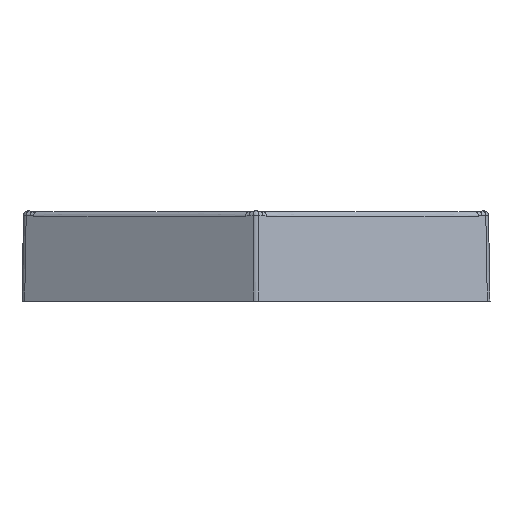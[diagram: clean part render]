
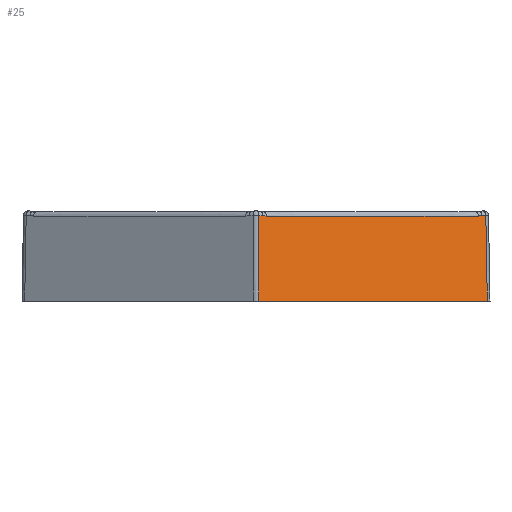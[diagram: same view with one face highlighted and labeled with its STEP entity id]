
A CAD part, left-side view. The second image highlights one B-rep face of the part: STEP entity #25.
In plain terms, the highlighted planar face has unit normal (-0.866, -0.5, 0.018).
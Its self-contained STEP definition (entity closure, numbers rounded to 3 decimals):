
#25=ADVANCED_FACE('',(#128),#1451,.T.);
#128=FACE_OUTER_BOUND('',#231,.T.);
#231=EDGE_LOOP('',(#345,#346,#347,#348,#349,#350,#351,#352));
#345=ORIENTED_EDGE('',*,*,#797,.T.);
#346=ORIENTED_EDGE('',*,*,#944,.T.);
#347=ORIENTED_EDGE('',*,*,#853,.T.);
#348=ORIENTED_EDGE('',*,*,#798,.F.);
#349=ORIENTED_EDGE('',*,*,#856,.T.);
#350=ORIENTED_EDGE('',*,*,#941,.T.);
#351=ORIENTED_EDGE('',*,*,#799,.T.);
#352=ORIENTED_EDGE('',*,*,#800,.T.);
#797=EDGE_CURVE('',#1257,#1258,#1019,.T.);
#798=EDGE_CURVE('',#1251,#1252,#1020,.T.);
#799=EDGE_CURVE('',#1261,#1262,#1021,.T.);
#800=EDGE_CURVE('',#1262,#1257,#1022,.T.);
#853=EDGE_CURVE('',#1259,#1252,#1075,.T.);
#856=EDGE_CURVE('',#1251,#1260,#1078,.T.);
#941=EDGE_CURVE('',#1260,#1261,#1136,.T.);
#944=EDGE_CURVE('',#1258,#1259,#1138,.T.);
#1019=B_SPLINE_CURVE_WITH_KNOTS('',3,(#3069,#3070,#3071,#3072),
 .UNSPECIFIED.,.F.,.F.,(4,4),(0.,0.982),.UNSPECIFIED.);
#1020=B_SPLINE_CURVE_WITH_KNOTS('',1,(#3073,#3074),.UNSPECIFIED.,.F.,.F.,
(2,2),(-59.028,0.),.UNSPECIFIED.);
#1021=B_SPLINE_CURVE_WITH_KNOTS('',3,(#3075,#3076,#3077,#3078),
 .UNSPECIFIED.,.F.,.F.,(4,4),(0.,0.982),.UNSPECIFIED.);
#1022=B_SPLINE_CURVE_WITH_KNOTS('',3,(#3079,#3080,#3081,#3082),
 .UNSPECIFIED.,.F.,.F.,(4,4),(0.,54.73),.UNSPECIFIED.);
#1075=B_SPLINE_CURVE_WITH_KNOTS('',1,(#3265,#3266),.UNSPECIFIED.,.F.,.F.,
(2,2),(-19.194,0.),.UNSPECIFIED.);
#1078=B_SPLINE_CURVE_WITH_KNOTS('',1,(#3271,#3272),.UNSPECIFIED.,.F.,.F.,
(2,2),(-19.194,0.),.UNSPECIFIED.);
#1136=B_SPLINE_CURVE_WITH_KNOTS('',3,(#3592,#3593,#3594,#3595),
 .UNSPECIFIED.,.F.,.F.,(4,4),(-0.001,0.),.UNSPECIFIED.);
#1138=B_SPLINE_CURVE_WITH_KNOTS('',3,(#3605,#3606,#3607,#3608),
 .UNSPECIFIED.,.F.,.F.,(4,4),(-0.001,0.),.UNSPECIFIED.);
#1251=VERTEX_POINT('',#2914);
#1252=VERTEX_POINT('',#2915);
#1257=VERTEX_POINT('',#2920);
#1258=VERTEX_POINT('',#2921);
#1259=VERTEX_POINT('',#2922);
#1260=VERTEX_POINT('',#2923);
#1261=VERTEX_POINT('',#2924);
#1262=VERTEX_POINT('',#2925);
#1451=PLANE('',#1496);
#1496=AXIS2_PLACEMENT_3D('',#1552,#1524,$);
#1524=DIRECTION('',(-0.866,-0.5,0.017));
#1552=CARTESIAN_POINT('',(-63.069,4.513,-2.466));
#2914=CARTESIAN_POINT('',(-30.553,-51.719,0.));
#2915=CARTESIAN_POINT('',(-60.067,-0.6,0.));
#2920=CARTESIAN_POINT('',(-58.705,-2.295,19.006));
#2921=CARTESIAN_POINT('',(-59.194,-1.447,19.069));
#2922=CARTESIAN_POINT('',(-59.68,-0.6,19.19));
#2923=CARTESIAN_POINT('',(-30.36,-51.384,19.19));
#2924=CARTESIAN_POINT('',(-30.85,-50.54,19.069));
#2925=CARTESIAN_POINT('',(-31.34,-49.693,19.006));
#3069=CARTESIAN_POINT('',(-58.705,-2.295,19.006));
#3070=CARTESIAN_POINT('',(-58.87,-2.01,19.006));
#3071=CARTESIAN_POINT('',(-59.032,-1.728,19.028));
#3072=CARTESIAN_POINT('',(-59.194,-1.447,19.069));
#3073=CARTESIAN_POINT('',(-30.553,-51.719,0.));
#3074=CARTESIAN_POINT('',(-60.067,-0.6,0.));
#3075=CARTESIAN_POINT('',(-30.85,-50.54,19.069));
#3076=CARTESIAN_POINT('',(-31.013,-50.259,19.028));
#3077=CARTESIAN_POINT('',(-31.176,-49.976,19.006));
#3078=CARTESIAN_POINT('',(-31.34,-49.693,19.006));
#3079=CARTESIAN_POINT('',(-31.34,-49.693,19.006));
#3080=CARTESIAN_POINT('',(-40.462,-33.893,19.006));
#3081=CARTESIAN_POINT('',(-49.583,-18.094,19.006));
#3082=CARTESIAN_POINT('',(-58.705,-2.295,19.006));
#3265=CARTESIAN_POINT('',(-59.68,-0.6,19.19));
#3266=CARTESIAN_POINT('',(-60.067,-0.6,0.));
#3271=CARTESIAN_POINT('',(-30.553,-51.719,0.));
#3272=CARTESIAN_POINT('',(-30.36,-51.384,19.19));
#3592=CARTESIAN_POINT('',(-30.36,-51.384,19.19));
#3593=CARTESIAN_POINT('',(-30.523,-51.103,19.15));
#3594=CARTESIAN_POINT('',(-30.686,-50.821,19.109));
#3595=CARTESIAN_POINT('',(-30.85,-50.54,19.069));
#3605=CARTESIAN_POINT('',(-59.194,-1.447,19.069));
#3606=CARTESIAN_POINT('',(-59.356,-1.164,19.109));
#3607=CARTESIAN_POINT('',(-59.518,-0.882,19.15));
#3608=CARTESIAN_POINT('',(-59.68,-0.6,19.19));
